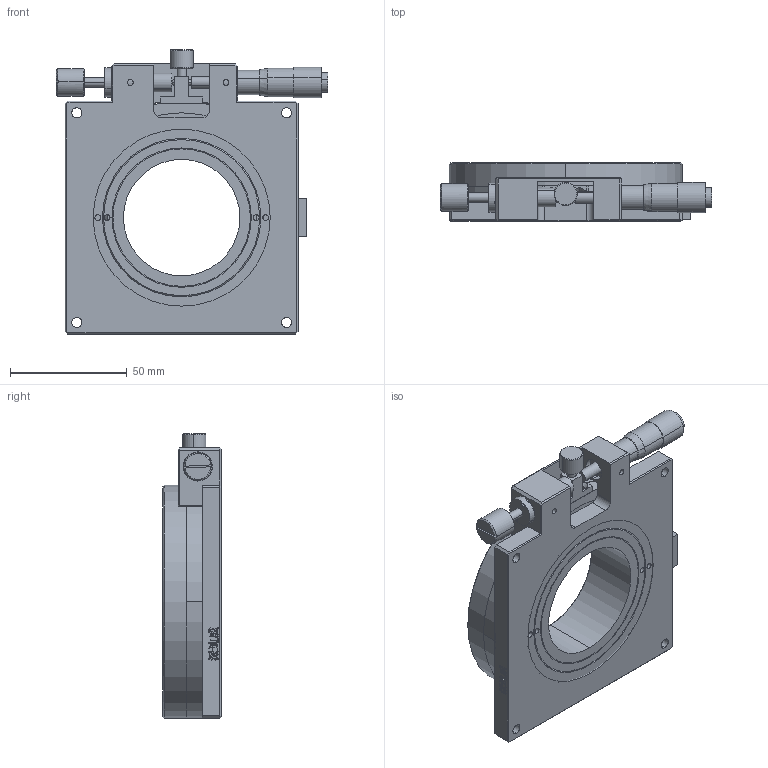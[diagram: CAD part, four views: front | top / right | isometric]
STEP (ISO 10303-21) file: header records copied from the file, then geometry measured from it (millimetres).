
FILE_DESCRIPTION (( 'STEP AP214' ), '1' );
FILE_NAME ('PT-SR100毀忒.STEP', '2023-05-07T08:31:27', ( '' ), ( '' ), 'SwSTEP 2.0', 'SolidWorks 2017', '' );
FILE_SCHEMA (( 'AUTOMOTIVE_DESIGN' ));
Length unit declared in the file: millimetre
Products named in the file (2): PT-SR100毀忒
Bounding box: 116.32 x 25 x 122 mm (x, y, z)
Volume: 157984.9 mm3; surface area: 75092.1 mm2
Topology: 15 solids, 15 shells, 526 faces, 1360 edges, 868 vertices
Faces by surface type: plane 231, cylinder 169, bspline 83, cone 43
Entity records: 25560 total; most frequent: CARTESIAN_POINT 6964, ORIENTED_EDGE 2672, DIRECTION 2460, EDGE_CURVE 1336, AXIS2_PLACEMENT_3D 870, VERTEX_POINT 868, LINE 720, VECTOR 720
